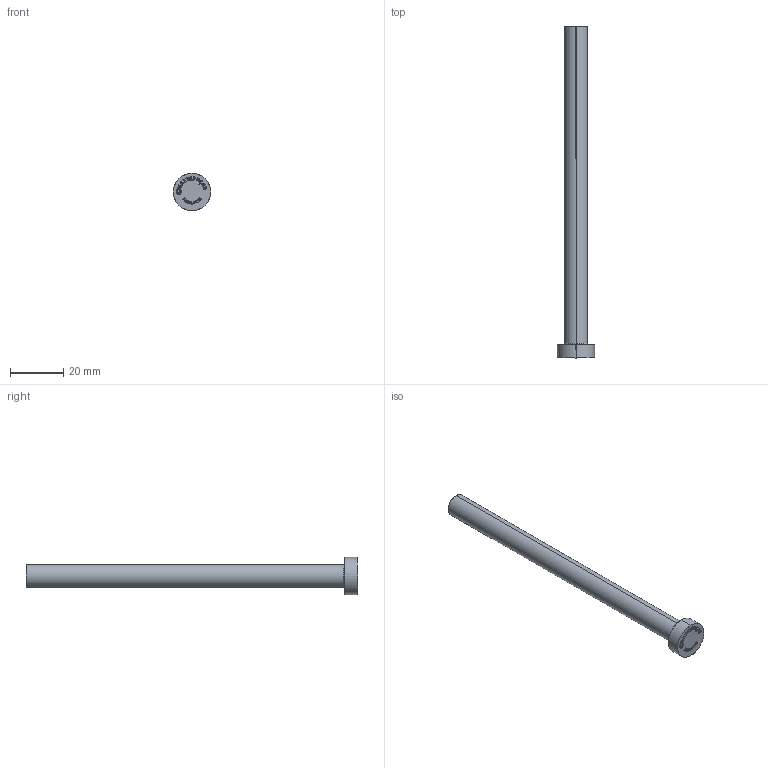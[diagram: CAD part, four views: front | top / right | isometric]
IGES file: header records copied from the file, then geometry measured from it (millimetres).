
Start section: SolidWorks IGES file using analytic representation for surfaces
Global section: file name: D:\Cleonir_particular\Matripeças\Pinos Extradores A DIN 1530\PA08,5125.IGS; native system: SolidWorks 2013; preprocessor: SolidWorks 2013; author: Cleonir; date: 130225.150221; units: millimetre
Bounding box: 14 x 125 x 14 mm (x, y, z)
Surface area: 3781.6 mm2 (no closed solid volume)
Topology: 0 solids, 0 shells, 295 faces, 3215 edges, 3215 vertices
Faces by surface type: bspline 283, revolution 12
